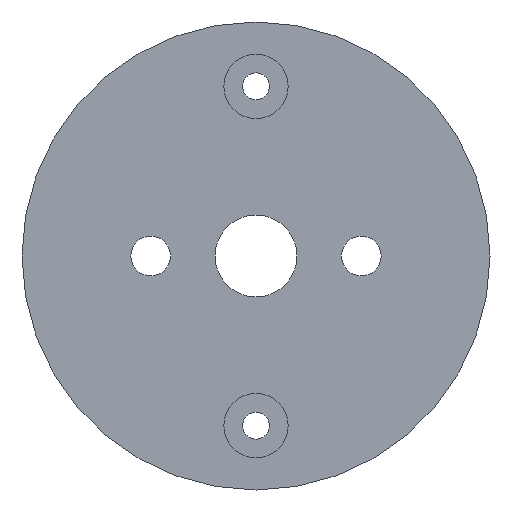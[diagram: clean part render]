
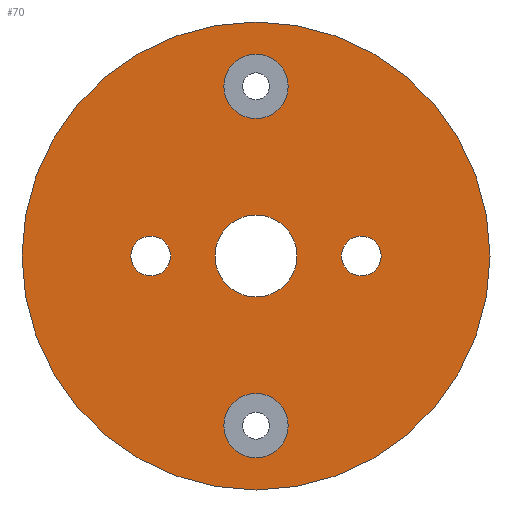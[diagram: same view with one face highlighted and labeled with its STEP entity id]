
A CAD part, left-side view. The second image highlights one B-rep face of the part: STEP entity #70.
In plain terms, the highlighted planar face has unit normal (-1, 0, 0).
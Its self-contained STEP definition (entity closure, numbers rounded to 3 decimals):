
#31 = VERTEX_POINT('',#32);
#32 = CARTESIAN_POINT('',(0.,20.,40.));
#38 = EDGE_CURVE('',#31,#31,#39,.T.);
#39 = CIRCLE('',#40,20.);
#40 = AXIS2_PLACEMENT_3D('',#41,#42,#43);
#41 = CARTESIAN_POINT('',(0.,20.,20.));
#42 = DIRECTION('',(1.,0.,0.));
#43 = DIRECTION('',(-0.,0.,1.));
#70 = ADVANCED_FACE('',(#71,#74,#85,#96,#107,#118),#129,.F.);
#71 = FACE_BOUND('',#72,.F.);
#72 = EDGE_LOOP('',(#73));
#73 = ORIENTED_EDGE('',*,*,#38,.T.);
#74 = FACE_BOUND('',#75,.F.);
#75 = EDGE_LOOP('',(#76));
#76 = ORIENTED_EDGE('',*,*,#77,.F.);
#77 = EDGE_CURVE('',#78,#78,#80,.T.);
#78 = VERTEX_POINT('',#79);
#79 = CARTESIAN_POINT('',(0.,20.,8.25));
#80 = CIRCLE('',#81,2.75);
#81 = AXIS2_PLACEMENT_3D('',#82,#83,#84);
#82 = CARTESIAN_POINT('',(0.,20.,5.5));
#83 = DIRECTION('',(1.,0.,0.));
#84 = DIRECTION('',(-0.,0.,1.));
#85 = FACE_BOUND('',#86,.F.);
#86 = EDGE_LOOP('',(#87));
#87 = ORIENTED_EDGE('',*,*,#88,.F.);
#88 = EDGE_CURVE('',#89,#89,#91,.T.);
#89 = VERTEX_POINT('',#90);
#90 = CARTESIAN_POINT('',(0.,29.,21.7));
#91 = CIRCLE('',#92,1.7);
#92 = AXIS2_PLACEMENT_3D('',#93,#94,#95);
#93 = CARTESIAN_POINT('',(0.,29.,20.));
#94 = DIRECTION('',(1.,0.,0.));
#95 = DIRECTION('',(-0.,0.,1.));
#96 = FACE_BOUND('',#97,.F.);
#97 = EDGE_LOOP('',(#98));
#98 = ORIENTED_EDGE('',*,*,#99,.F.);
#99 = EDGE_CURVE('',#100,#100,#102,.T.);
#100 = VERTEX_POINT('',#101);
#101 = CARTESIAN_POINT('',(0.,20.,23.5));
#102 = CIRCLE('',#103,3.5);
#103 = AXIS2_PLACEMENT_3D('',#104,#105,#106);
#104 = CARTESIAN_POINT('',(0.,20.,20.));
#105 = DIRECTION('',(1.,0.,0.));
#106 = DIRECTION('',(-0.,0.,1.));
#107 = FACE_BOUND('',#108,.F.);
#108 = EDGE_LOOP('',(#109));
#109 = ORIENTED_EDGE('',*,*,#110,.F.);
#110 = EDGE_CURVE('',#111,#111,#113,.T.);
#111 = VERTEX_POINT('',#112);
#112 = CARTESIAN_POINT('',(0.,20.,37.25));
#113 = CIRCLE('',#114,2.75);
#114 = AXIS2_PLACEMENT_3D('',#115,#116,#117);
#115 = CARTESIAN_POINT('',(0.,20.,34.5));
#116 = DIRECTION('',(1.,0.,0.));
#117 = DIRECTION('',(-0.,0.,1.));
#118 = FACE_BOUND('',#119,.F.);
#119 = EDGE_LOOP('',(#120));
#120 = ORIENTED_EDGE('',*,*,#121,.F.);
#121 = EDGE_CURVE('',#122,#122,#124,.T.);
#122 = VERTEX_POINT('',#123);
#123 = CARTESIAN_POINT('',(0.,11.,21.7));
#124 = CIRCLE('',#125,1.7);
#125 = AXIS2_PLACEMENT_3D('',#126,#127,#128);
#126 = CARTESIAN_POINT('',(0.,11.,20.));
#127 = DIRECTION('',(1.,0.,0.));
#128 = DIRECTION('',(-0.,0.,1.));
#129 = PLANE('',#130);
#130 = AXIS2_PLACEMENT_3D('',#131,#132,#133);
#131 = CARTESIAN_POINT('',(0.,20.,20.));
#132 = DIRECTION('',(1.,0.,0.));
#133 = DIRECTION('',(-0.,0.,1.));
